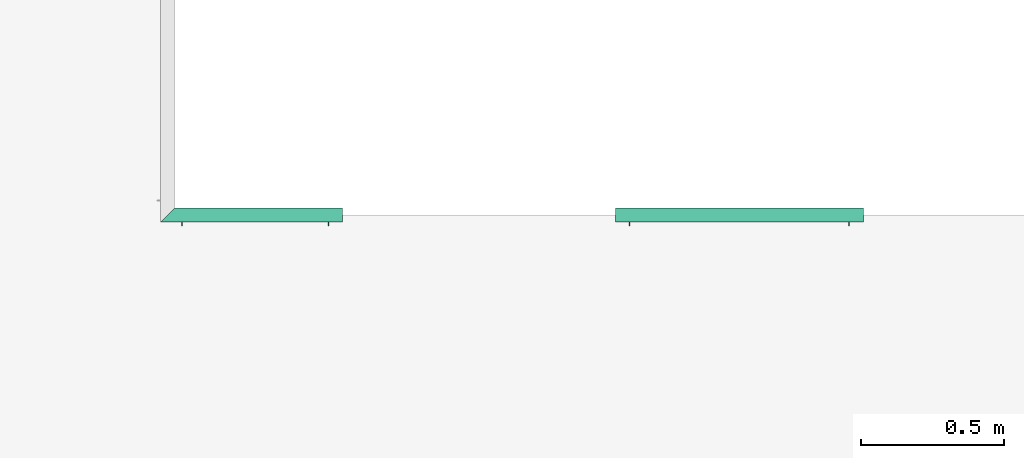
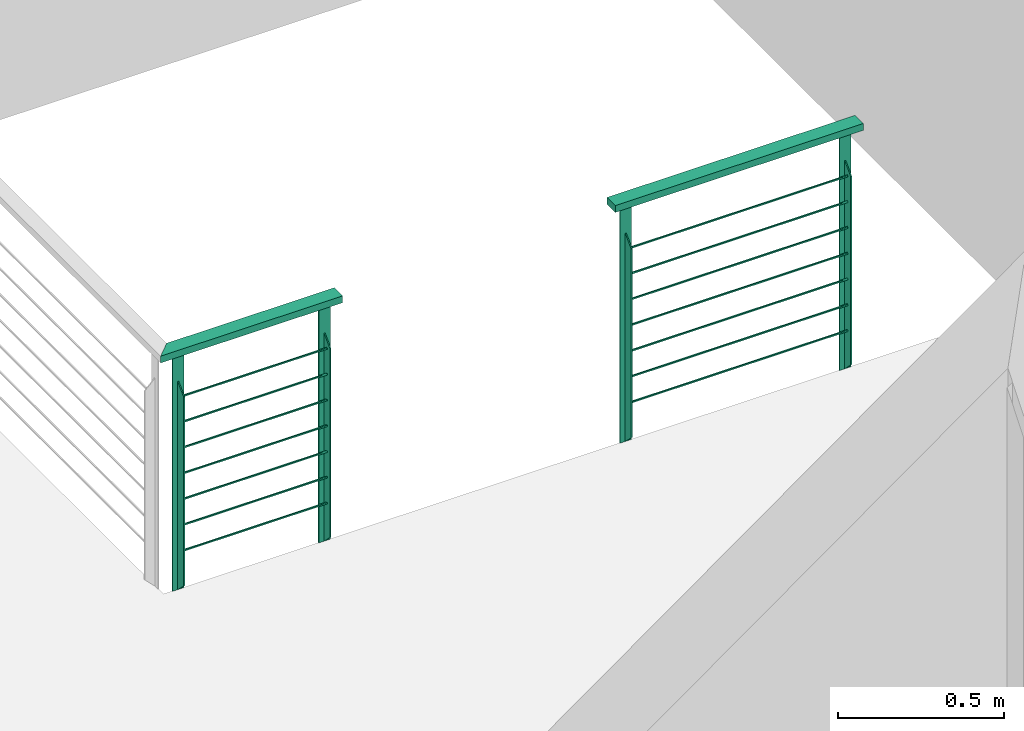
# One storey, part 18 of 26: 2 distribution elements.
"""IFC2X3 building model written with IfcOpenShell, lengths in millimetres."""

from ifc_helpers import new_model, entity, si_unit, converted_unit, money_unit, direction, frame, origin_with_axes, place, context, subcontext, project, spatial, faceted_brep, material, type_object, element, save


model = new_model("IFC2X3")

# Units and contexts
model_context = context("Model", 3, precision=1e-05, world=origin_with_axes(), true_north=direction((0.0, 1.0)))
body_context = subcontext(model_context, "Body", "Model", "MODEL_VIEW")
ifc_project = project(units=[si_unit("LENGTHUNIT", "METRE", prefix="MILLI"), si_unit("AREAUNIT", "SQUARE_METRE"), si_unit("VOLUMEUNIT", "CUBIC_METRE"), converted_unit("PLANEANGLEUNIT", "DEGREE", entity("IfcPlaneAngleMeasure", 0.0174532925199), si_unit("PLANEANGLEUNIT", "RADIAN"), dimensions=[0, 0, 0, 0, 0, 0, 0]), si_unit("SOLIDANGLEUNIT", "STERADIAN"), money_unit("USD"), converted_unit("TIMEUNIT", "Year", entity("IfcTimeMeasure", 31556926.0), si_unit("TIMEUNIT", "SECOND"), dimensions=[0, 0, 0, 0, 0, 0, 0]), si_unit("MASSUNIT", "GRAM"), si_unit("THERMODYNAMICTEMPERATUREUNIT", "DEGREE_CELSIUS"), si_unit("LUMINOUSINTENSITYUNIT", "LUMEN")], contexts=[model_context])

# Site, building, storey
site_placement = place(None, origin_with_axes())
site = spatial("IfcSite", under=ifc_project, at=site_placement, Name="Grove Residential", CompositionType="ELEMENT")
building_placement = place(site_placement, origin_with_axes())
building = spatial("IfcBuilding", under=site, at=building_placement, Name="Building", CompositionType="ELEMENT")
storey_placement = place(building_placement, origin_with_axes())
storey = spatial("IfcBuildingStorey", under=building, at=storey_placement, Name="Ground Floor", CompositionType="ELEMENT", Elevation=0.0)

# Distribution elements
ifc_material = material(Name="Background")
distribution_element_type = type_object("IfcDistributionElementType", Name="Rail Wired 02 20")
distribution_element_1_placement = place(storey_placement, frame((4285.0, 3749.99996722, 0.0), z_axis=(0.0, 0.0, 1.0), x_axis=(1.0, 0.0, 0.0)))
element("IfcDistributionElement", 1, at=distribution_element_1_placement, inside=storey, type_object=distribution_element_type, material=ifc_material, Name="FU - 001", context=body_context, shape_type="Brep", body=[
    faceted_brep([(0.0, 25.0, 875.0), (0.0, 25.0, 900.0), (0.0, -25.0, 900.0), (0.0, -25.0, 875.0), (-585.000084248, 25.0, 875.0), (-585.000084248, 25.0, 900.0), (-635.000084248, -25.0, 900.0), (-635.000084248, -25.0, 900.0), (-635.000084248, -25.0, 875.0), (-635.000084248, -25.0, 875.0)], [[[0, 1, 2, 3]], [[4, 5, 1, 0]], [[1, 5, 6, 7, 2]], [[3, 2, 7, 8]], [[0, 3, 8, 9, 4]], [[9, 6, 5, 4]], [[8, 7, 6, 9]]]),
    faceted_brep([(-30.0, -2.0, 0.0), (-30.0, -2.0, 871.0), (-70.0, -2.0, 871.0), (-70.0, -2.0, 0.0), (-30.0, 2.0, 0.0), (-30.0, 2.0, 871.0), (-70.0, 2.0, 871.0), (-70.0, 2.0, 0.0)], [[[0, 1, 2, 3]], [[4, 5, 1, 0]], [[1, 5, 6, 2]], [[3, 2, 6, 7]], [[0, 3, 7, 4]], [[7, 6, 5, 4]]]),
    faceted_brep([(-52.0, -38.0, 36.0), (-48.0, -38.0, 36.0), (-48.0, -38.0, 731.0), (-52.0, -38.0, 731.0), (-52.0, -2.0, 0.0), (-48.0, -2.0, 0.0), (-48.0, -2.0, 767.0), (-52.0, -2.0, 767.0)], [[[0, 1, 2, 3]], [[4, 5, 1, 0]], [[1, 5, 6, 2]], [[3, 2, 6, 7]], [[0, 3, 7, 4]], [[7, 6, 5, 4]]]),
    faceted_brep([(-540.000084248, -2.0, 0.0), (-540.000084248, -2.0, 871.0), (-580.000084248, -2.0, 871.0), (-580.000084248, -2.0, 0.0), (-540.000084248, 2.0, 0.0), (-540.000084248, 2.0, 871.0), (-580.000084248, 2.0, 871.0), (-580.000084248, 2.0, 0.0)], [[[0, 1, 2, 3]], [[4, 5, 1, 0]], [[1, 5, 6, 2]], [[3, 2, 6, 7]], [[0, 3, 7, 4]], [[7, 6, 5, 4]]]),
    faceted_brep([(-562.000084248, -38.0, 36.0), (-558.000084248, -38.0, 36.0), (-558.000084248, -38.0, 731.0), (-562.000084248, -38.0, 731.0), (-562.000084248, -2.0, 0.0), (-558.000084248, -2.0, 0.0), (-558.000084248, -2.0, 767.0), (-562.000084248, -2.0, 767.0)], [[[0, 1, 2, 3]], [[4, 5, 1, 0]], [[1, 5, 6, 2]], [[3, 2, 6, 7]], [[0, 3, 7, 4]], [[7, 6, 5, 4]]]),
    faceted_brep([(-20.0, -15.0, 871.0), (-20.0, -15.0, 875.0), (-80.0, -15.0, 875.0), (-80.0, -15.0, 871.0), (-20.0, 15.0, 871.0), (-20.0, 15.0, 875.0), (-80.0, 15.0, 875.0), (-80.0, 15.0, 871.0)], [[[0, 1, 2, 3]], [[4, 5, 1, 0]], [[1, 5, 6, 2]], [[3, 2, 6, 7]], [[0, 3, 7, 4]], [[7, 6, 5, 4]]]),
    faceted_brep([(-530.000084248, -15.0, 871.0), (-530.000084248, -15.0, 875.0), (-590.000084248, -15.0, 875.0), (-590.000084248, -15.0, 871.0), (-530.000084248, 15.0, 871.0), (-530.000084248, 15.0, 875.0), (-590.000084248, 15.0, 875.0), (-590.000084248, 15.0, 871.0)], [[[0, 1, 2, 3]], [[4, 5, 1, 0]], [[1, 5, 6, 2]], [[3, 2, 6, 7]], [[0, 3, 7, 4]], [[7, 6, 5, 4]]]),
    faceted_brep([(-540.000084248, -22.0, 155.0), (-558.000084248, -22.0, 155.0), (-558.000084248, -22.5, 155.0), (-52.0, -22.5, 155.0), (-52.0, -22.0, 155.0), (-70.0, -22.0, 155.0), (-70.0, -18.0, 155.0), (-50.0, -18.0, 155.0), (-50.0, -17.5, 155.0), (-560.000084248, -17.5, 155.0), (-560.000084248, -18.0, 155.0), (-540.000084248, -18.0, 155.0), (-540.000084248, -22.0, 150.0), (-558.000084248, -22.0, 150.0), (-558.000084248, -22.5, 150.0), (-52.0, -22.5, 150.0), (-52.0, -22.0, 150.0), (-70.0, -22.0, 150.0), (-70.0, -18.0, 150.0), (-50.0, -18.0, 150.0), (-50.0, -17.5, 150.0), (-560.000084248, -17.5, 150.0), (-560.000084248, -18.0, 150.0), (-540.000084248, -18.0, 150.0)], [[[0, 1, 2, 3, 4, 5, 6, 7, 8, 9, 10, 11]], [[0, 12, 13, 1]], [[13, 14, 2, 1]], [[3, 2, 14, 15]], [[3, 15, 16, 4]], [[16, 17, 5, 4]], [[5, 17, 18, 6]], [[6, 18, 19, 7]], [[19, 20, 8, 7]], [[9, 8, 20, 21]], [[10, 9, 21, 22]], [[22, 23, 11, 10]], [[11, 23, 12, 0]], [[12, 23, 22, 21, 20, 19, 18, 17, 16, 15, 14, 13]]]),
    faceted_brep([(-540.000084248, -22.0, 250.0), (-558.000084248, -22.0, 250.0), (-558.000084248, -22.5, 250.0), (-52.0, -22.5, 250.0), (-52.0, -22.0, 250.0), (-70.0, -22.0, 250.0), (-70.0, -18.0, 250.0), (-50.0, -18.0, 250.0), (-50.0, -17.5, 250.0), (-560.000084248, -17.5, 250.0), (-560.000084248, -18.0, 250.0), (-540.000084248, -18.0, 250.0), (-540.000084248, -22.0, 245.0), (-558.000084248, -22.0, 245.0), (-558.000084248, -22.5, 245.0), (-52.0, -22.5, 245.0), (-52.0, -22.0, 245.0), (-70.0, -22.0, 245.0), (-70.0, -18.0, 245.0), (-50.0, -18.0, 245.0), (-50.0, -17.5, 245.0), (-560.000084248, -17.5, 245.0), (-560.000084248, -18.0, 245.0), (-540.000084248, -18.0, 245.0)], [[[0, 1, 2, 3, 4, 5, 6, 7, 8, 9, 10, 11]], [[0, 12, 13, 1]], [[13, 14, 2, 1]], [[3, 2, 14, 15]], [[3, 15, 16, 4]], [[16, 17, 5, 4]], [[5, 17, 18, 6]], [[6, 18, 19, 7]], [[19, 20, 8, 7]], [[9, 8, 20, 21]], [[10, 9, 21, 22]], [[22, 23, 11, 10]], [[11, 23, 12, 0]], [[12, 23, 22, 21, 20, 19, 18, 17, 16, 15, 14, 13]]]),
    faceted_brep([(-540.000084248, -22.0, 345.0), (-558.000084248, -22.0, 345.0), (-558.000084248, -22.5, 345.0), (-52.0, -22.5, 345.0), (-52.0, -22.0, 345.0), (-70.0, -22.0, 345.0), (-70.0, -18.0, 345.0), (-50.0, -18.0, 345.0), (-50.0, -17.5, 345.0), (-560.000084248, -17.5, 345.0), (-560.000084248, -18.0, 345.0), (-540.000084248, -18.0, 345.0), (-540.000084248, -22.0, 340.0), (-558.000084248, -22.0, 340.0), (-558.000084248, -22.5, 340.0), (-52.0, -22.5, 340.0), (-52.0, -22.0, 340.0), (-70.0, -22.0, 340.0), (-70.0, -18.0, 340.0), (-50.0, -18.0, 340.0), (-50.0, -17.5, 340.0), (-560.000084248, -17.5, 340.0), (-560.000084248, -18.0, 340.0), (-540.000084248, -18.0, 340.0)], [[[0, 1, 2, 3, 4, 5, 6, 7, 8, 9, 10, 11]], [[0, 12, 13, 1]], [[13, 14, 2, 1]], [[3, 2, 14, 15]], [[3, 15, 16, 4]], [[16, 17, 5, 4]], [[5, 17, 18, 6]], [[6, 18, 19, 7]], [[19, 20, 8, 7]], [[9, 8, 20, 21]], [[10, 9, 21, 22]], [[22, 23, 11, 10]], [[11, 23, 12, 0]], [[12, 23, 22, 21, 20, 19, 18, 17, 16, 15, 14, 13]]]),
    faceted_brep([(-540.000084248, -22.0, 440.0), (-558.000084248, -22.0, 440.0), (-558.000084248, -22.5, 440.0), (-52.0, -22.5, 440.0), (-52.0, -22.0, 440.0), (-70.0, -22.0, 440.0), (-70.0, -18.0, 440.0), (-50.0, -18.0, 440.0), (-50.0, -17.5, 440.0), (-560.000084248, -17.5, 440.0), (-560.000084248, -18.0, 440.0), (-540.000084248, -18.0, 440.0), (-540.000084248, -22.0, 435.0), (-558.000084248, -22.0, 435.0), (-558.000084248, -22.5, 435.0), (-52.0, -22.5, 435.0), (-52.0, -22.0, 435.0), (-70.0, -22.0, 435.0), (-70.0, -18.0, 435.0), (-50.0, -18.0, 435.0), (-50.0, -17.5, 435.0), (-560.000084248, -17.5, 435.0), (-560.000084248, -18.0, 435.0), (-540.000084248, -18.0, 435.0)], [[[0, 1, 2, 3, 4, 5, 6, 7, 8, 9, 10, 11]], [[0, 12, 13, 1]], [[13, 14, 2, 1]], [[3, 2, 14, 15]], [[3, 15, 16, 4]], [[16, 17, 5, 4]], [[5, 17, 18, 6]], [[6, 18, 19, 7]], [[19, 20, 8, 7]], [[9, 8, 20, 21]], [[10, 9, 21, 22]], [[22, 23, 11, 10]], [[11, 23, 12, 0]], [[12, 23, 22, 21, 20, 19, 18, 17, 16, 15, 14, 13]]]),
    faceted_brep([(-540.000084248, -22.0, 535.0), (-558.000084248, -22.0, 535.0), (-558.000084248, -22.5, 535.0), (-52.0, -22.5, 535.0), (-52.0, -22.0, 535.0), (-70.0, -22.0, 535.0), (-70.0, -18.0, 535.0), (-50.0, -18.0, 535.0), (-50.0, -17.5, 535.0), (-560.000084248, -17.5, 535.0), (-560.000084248, -18.0, 535.0), (-540.000084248, -18.0, 535.0), (-540.000084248, -22.0, 530.0), (-558.000084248, -22.0, 530.0), (-558.000084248, -22.5, 530.0), (-52.0, -22.5, 530.0), (-52.0, -22.0, 530.0), (-70.0, -22.0, 530.0), (-70.0, -18.0, 530.0), (-50.0, -18.0, 530.0), (-50.0, -17.5, 530.0), (-560.000084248, -17.5, 530.0), (-560.000084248, -18.0, 530.0), (-540.000084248, -18.0, 530.0)], [[[0, 1, 2, 3, 4, 5, 6, 7, 8, 9, 10, 11]], [[0, 12, 13, 1]], [[13, 14, 2, 1]], [[3, 2, 14, 15]], [[3, 15, 16, 4]], [[16, 17, 5, 4]], [[5, 17, 18, 6]], [[6, 18, 19, 7]], [[19, 20, 8, 7]], [[9, 8, 20, 21]], [[10, 9, 21, 22]], [[22, 23, 11, 10]], [[11, 23, 12, 0]], [[12, 23, 22, 21, 20, 19, 18, 17, 16, 15, 14, 13]]]),
    faceted_brep([(-540.000084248, -22.0, 630.0), (-558.000084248, -22.0, 630.0), (-558.000084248, -22.5, 630.0), (-52.0, -22.5, 630.0), (-52.0, -22.0, 630.0), (-70.0, -22.0, 630.0), (-70.0, -18.0, 630.0), (-50.0, -18.0, 630.0), (-50.0, -17.5, 630.0), (-560.000084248, -17.5, 630.0), (-560.000084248, -18.0, 630.0), (-540.000084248, -18.0, 630.0), (-540.000084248, -22.0, 625.0), (-558.000084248, -22.0, 625.0), (-558.000084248, -22.5, 625.0), (-52.0, -22.5, 625.0), (-52.0, -22.0, 625.0), (-70.0, -22.0, 625.0), (-70.0, -18.0, 625.0), (-50.0, -18.0, 625.0), (-50.0, -17.5, 625.0), (-560.000084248, -17.5, 625.0), (-560.000084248, -18.0, 625.0), (-540.000084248, -18.0, 625.0)], [[[0, 1, 2, 3, 4, 5, 6, 7, 8, 9, 10, 11]], [[0, 12, 13, 1]], [[13, 14, 2, 1]], [[3, 2, 14, 15]], [[3, 15, 16, 4]], [[16, 17, 5, 4]], [[5, 17, 18, 6]], [[6, 18, 19, 7]], [[19, 20, 8, 7]], [[9, 8, 20, 21]], [[10, 9, 21, 22]], [[22, 23, 11, 10]], [[11, 23, 12, 0]], [[12, 23, 22, 21, 20, 19, 18, 17, 16, 15, 14, 13]]]),
    faceted_brep([(-540.000084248, -22.0, 725.0), (-558.000084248, -22.0, 725.0), (-558.000084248, -22.5, 725.0), (-52.0, -22.5, 725.0), (-52.0, -22.0, 725.0), (-70.0, -22.0, 725.0), (-70.0, -18.0, 725.0), (-50.0, -18.0, 725.0), (-50.0, -17.5, 725.0), (-560.000084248, -17.5, 725.0), (-560.000084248, -18.0, 725.0), (-540.000084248, -18.0, 725.0), (-540.000084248, -22.0, 720.0), (-558.000084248, -22.0, 720.0), (-558.000084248, -22.5, 720.0), (-52.0, -22.5, 720.0), (-52.0, -22.0, 720.0), (-70.0, -22.0, 720.0), (-70.0, -18.0, 720.0), (-50.0, -18.0, 720.0), (-50.0, -17.5, 720.0), (-560.000084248, -17.5, 720.0), (-560.000084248, -18.0, 720.0), (-540.000084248, -18.0, 720.0)], [[[0, 1, 2, 3, 4, 5, 6, 7, 8, 9, 10, 11]], [[0, 12, 13, 1]], [[13, 14, 2, 1]], [[3, 2, 14, 15]], [[3, 15, 16, 4]], [[16, 17, 5, 4]], [[5, 17, 18, 6]], [[6, 18, 19, 7]], [[19, 20, 8, 7]], [[9, 8, 20, 21]], [[10, 9, 21, 22]], [[22, 23, 11, 10]], [[11, 23, 12, 0]], [[12, 23, 22, 21, 20, 19, 18, 17, 16, 15, 14, 13]]]),
])
distribution_element_2_placement = place(storey_placement, frame((5235.0, 3749.99996722, 0.0), z_axis=(0.0, 0.0, 1.0), x_axis=(1.0, 0.0, 0.0)))
element("IfcDistributionElement", 2, at=distribution_element_2_placement, inside=storey, type_object=distribution_element_type, material=ifc_material, Name="FU - 001", context=body_context, shape_type="Brep", body=[
    faceted_brep([(0.0, 25.0, 875.0), (0.0, -25.0, 875.0), (0.0, -25.0, 900.0), (0.0, 25.0, 900.0), (865.0, 25.0, 875.0), (865.0, -25.0, 875.0), (865.0, -25.0, 900.0), (865.0, 25.0, 900.0)], [[[0, 1, 2, 3]], [[0, 4, 5, 1]], [[1, 5, 6, 2]], [[3, 2, 6, 7]], [[4, 0, 3, 7]], [[5, 4, 7, 6]]]),
    faceted_brep([(30.0, -2.0, 0.0), (70.0, -2.0, 0.0), (70.0, -2.0, 871.0), (30.0, -2.0, 871.0), (30.0, 2.0, 0.0), (70.0, 2.0, 0.0), (70.0, 2.0, 871.0), (30.0, 2.0, 871.0)], [[[0, 1, 2, 3]], [[0, 4, 5, 1]], [[1, 5, 6, 2]], [[3, 2, 6, 7]], [[4, 0, 3, 7]], [[5, 4, 7, 6]]]),
    faceted_brep([(52.0, -38.0, 36.0), (52.0, -38.0, 731.0), (48.0, -38.0, 731.0), (48.0, -38.0, 36.0), (52.0, -2.0, 0.0), (52.0, -2.0, 767.0), (48.0, -2.0, 767.0), (48.0, -2.0, 0.0)], [[[0, 1, 2, 3]], [[0, 4, 5, 1]], [[1, 5, 6, 2]], [[3, 2, 6, 7]], [[4, 0, 3, 7]], [[5, 4, 7, 6]]]),
    faceted_brep([(795.0, -2.0, 0.0), (835.0, -2.0, 0.0), (835.0, -2.0, 871.0), (795.0, -2.0, 871.0), (795.0, 2.0, 0.0), (835.0, 2.0, 0.0), (835.0, 2.0, 871.0), (795.0, 2.0, 871.0)], [[[0, 1, 2, 3]], [[0, 4, 5, 1]], [[1, 5, 6, 2]], [[3, 2, 6, 7]], [[4, 0, 3, 7]], [[5, 4, 7, 6]]]),
    faceted_brep([(817.0, -38.0, 36.0), (817.0, -38.0, 731.0), (813.0, -38.0, 731.0), (813.0, -38.0, 36.0), (817.0, -2.0, 0.0), (817.0, -2.0, 767.0), (813.0, -2.0, 767.0), (813.0, -2.0, 0.0)], [[[0, 1, 2, 3]], [[0, 4, 5, 1]], [[1, 5, 6, 2]], [[3, 2, 6, 7]], [[4, 0, 3, 7]], [[5, 4, 7, 6]]]),
    faceted_brep([(20.0, -15.0, 871.0), (80.0, -15.0, 871.0), (80.0, -15.0, 875.0), (20.0, -15.0, 875.0), (20.0, 15.0, 871.0), (80.0, 15.0, 871.0), (80.0, 15.0, 875.0), (20.0, 15.0, 875.0)], [[[0, 1, 2, 3]], [[0, 4, 5, 1]], [[1, 5, 6, 2]], [[3, 2, 6, 7]], [[4, 0, 3, 7]], [[5, 4, 7, 6]]]),
    faceted_brep([(785.0, -15.0, 871.0), (845.0, -15.0, 871.0), (845.0, -15.0, 875.0), (785.0, -15.0, 875.0), (785.0, 15.0, 871.0), (845.0, 15.0, 871.0), (845.0, 15.0, 875.0), (785.0, 15.0, 875.0)], [[[0, 1, 2, 3]], [[0, 4, 5, 1]], [[1, 5, 6, 2]], [[3, 2, 6, 7]], [[4, 0, 3, 7]], [[5, 4, 7, 6]]]),
    faceted_brep([(795.0, -22.0, 155.0), (795.0, -18.0, 155.0), (815.0, -18.0, 155.0), (815.0, -17.5, 155.0), (50.0, -17.5, 155.0), (50.0, -18.0, 155.0), (70.0, -18.0, 155.0), (70.0, -22.0, 155.0), (52.0, -22.0, 155.0), (52.0, -22.5, 155.0), (813.0, -22.5, 155.0), (813.0, -22.0, 155.0), (795.0, -22.0, 150.0), (795.0, -18.0, 150.0), (815.0, -18.0, 150.0), (815.0, -17.5, 150.0), (50.0, -17.5, 150.0), (50.0, -18.0, 150.0), (70.0, -18.0, 150.0), (70.0, -22.0, 150.0), (52.0, -22.0, 150.0), (52.0, -22.5, 150.0), (813.0, -22.5, 150.0), (813.0, -22.0, 150.0)], [[[0, 1, 2, 3, 4, 5, 6, 7, 8, 9, 10, 11]], [[1, 0, 12, 13]], [[14, 2, 1, 13]], [[2, 14, 15, 3]], [[3, 15, 16, 4]], [[17, 5, 4, 16]], [[6, 5, 17, 18]], [[7, 6, 18, 19]], [[20, 8, 7, 19]], [[9, 8, 20, 21]], [[9, 21, 22, 10]], [[23, 11, 10, 22]], [[0, 11, 23, 12]], [[12, 23, 22, 21, 20, 19, 18, 17, 16, 15, 14, 13]]]),
    faceted_brep([(795.0, -22.0, 250.0), (795.0, -18.0, 250.0), (815.0, -18.0, 250.0), (815.0, -17.5, 250.0), (50.0, -17.5, 250.0), (50.0, -18.0, 250.0), (70.0, -18.0, 250.0), (70.0, -22.0, 250.0), (52.0, -22.0, 250.0), (52.0, -22.5, 250.0), (813.0, -22.5, 250.0), (813.0, -22.0, 250.0), (795.0, -22.0, 245.0), (795.0, -18.0, 245.0), (815.0, -18.0, 245.0), (815.0, -17.5, 245.0), (50.0, -17.5, 245.0), (50.0, -18.0, 245.0), (70.0, -18.0, 245.0), (70.0, -22.0, 245.0), (52.0, -22.0, 245.0), (52.0, -22.5, 245.0), (813.0, -22.5, 245.0), (813.0, -22.0, 245.0)], [[[0, 1, 2, 3, 4, 5, 6, 7, 8, 9, 10, 11]], [[1, 0, 12, 13]], [[14, 2, 1, 13]], [[2, 14, 15, 3]], [[3, 15, 16, 4]], [[17, 5, 4, 16]], [[6, 5, 17, 18]], [[7, 6, 18, 19]], [[20, 8, 7, 19]], [[9, 8, 20, 21]], [[9, 21, 22, 10]], [[23, 11, 10, 22]], [[0, 11, 23, 12]], [[12, 23, 22, 21, 20, 19, 18, 17, 16, 15, 14, 13]]]),
    faceted_brep([(795.0, -22.0, 345.0), (795.0, -18.0, 345.0), (815.0, -18.0, 345.0), (815.0, -17.5, 345.0), (50.0, -17.5, 345.0), (50.0, -18.0, 345.0), (70.0, -18.0, 345.0), (70.0, -22.0, 345.0), (52.0, -22.0, 345.0), (52.0, -22.5, 345.0), (813.0, -22.5, 345.0), (813.0, -22.0, 345.0), (795.0, -22.0, 340.0), (795.0, -18.0, 340.0), (815.0, -18.0, 340.0), (815.0, -17.5, 340.0), (50.0, -17.5, 340.0), (50.0, -18.0, 340.0), (70.0, -18.0, 340.0), (70.0, -22.0, 340.0), (52.0, -22.0, 340.0), (52.0, -22.5, 340.0), (813.0, -22.5, 340.0), (813.0, -22.0, 340.0)], [[[0, 1, 2, 3, 4, 5, 6, 7, 8, 9, 10, 11]], [[1, 0, 12, 13]], [[14, 2, 1, 13]], [[2, 14, 15, 3]], [[3, 15, 16, 4]], [[17, 5, 4, 16]], [[6, 5, 17, 18]], [[7, 6, 18, 19]], [[20, 8, 7, 19]], [[9, 8, 20, 21]], [[9, 21, 22, 10]], [[23, 11, 10, 22]], [[0, 11, 23, 12]], [[12, 23, 22, 21, 20, 19, 18, 17, 16, 15, 14, 13]]]),
    faceted_brep([(795.0, -22.0, 440.0), (795.0, -18.0, 440.0), (815.0, -18.0, 440.0), (815.0, -17.5, 440.0), (50.0, -17.5, 440.0), (50.0, -18.0, 440.0), (70.0, -18.0, 440.0), (70.0, -22.0, 440.0), (52.0, -22.0, 440.0), (52.0, -22.5, 440.0), (813.0, -22.5, 440.0), (813.0, -22.0, 440.0), (795.0, -22.0, 435.0), (795.0, -18.0, 435.0), (815.0, -18.0, 435.0), (815.0, -17.5, 435.0), (50.0, -17.5, 435.0), (50.0, -18.0, 435.0), (70.0, -18.0, 435.0), (70.0, -22.0, 435.0), (52.0, -22.0, 435.0), (52.0, -22.5, 435.0), (813.0, -22.5, 435.0), (813.0, -22.0, 435.0)], [[[0, 1, 2, 3, 4, 5, 6, 7, 8, 9, 10, 11]], [[1, 0, 12, 13]], [[14, 2, 1, 13]], [[2, 14, 15, 3]], [[3, 15, 16, 4]], [[17, 5, 4, 16]], [[6, 5, 17, 18]], [[7, 6, 18, 19]], [[20, 8, 7, 19]], [[9, 8, 20, 21]], [[9, 21, 22, 10]], [[23, 11, 10, 22]], [[0, 11, 23, 12]], [[12, 23, 22, 21, 20, 19, 18, 17, 16, 15, 14, 13]]]),
    faceted_brep([(795.0, -22.0, 535.0), (795.0, -18.0, 535.0), (815.0, -18.0, 535.0), (815.0, -17.5, 535.0), (50.0, -17.5, 535.0), (50.0, -18.0, 535.0), (70.0, -18.0, 535.0), (70.0, -22.0, 535.0), (52.0, -22.0, 535.0), (52.0, -22.5, 535.0), (813.0, -22.5, 535.0), (813.0, -22.0, 535.0), (795.0, -22.0, 530.0), (795.0, -18.0, 530.0), (815.0, -18.0, 530.0), (815.0, -17.5, 530.0), (50.0, -17.5, 530.0), (50.0, -18.0, 530.0), (70.0, -18.0, 530.0), (70.0, -22.0, 530.0), (52.0, -22.0, 530.0), (52.0, -22.5, 530.0), (813.0, -22.5, 530.0), (813.0, -22.0, 530.0)], [[[0, 1, 2, 3, 4, 5, 6, 7, 8, 9, 10, 11]], [[1, 0, 12, 13]], [[14, 2, 1, 13]], [[2, 14, 15, 3]], [[3, 15, 16, 4]], [[17, 5, 4, 16]], [[6, 5, 17, 18]], [[7, 6, 18, 19]], [[20, 8, 7, 19]], [[9, 8, 20, 21]], [[9, 21, 22, 10]], [[23, 11, 10, 22]], [[0, 11, 23, 12]], [[12, 23, 22, 21, 20, 19, 18, 17, 16, 15, 14, 13]]]),
    faceted_brep([(795.0, -22.0, 630.0), (795.0, -18.0, 630.0), (815.0, -18.0, 630.0), (815.0, -17.5, 630.0), (50.0, -17.5, 630.0), (50.0, -18.0, 630.0), (70.0, -18.0, 630.0), (70.0, -22.0, 630.0), (52.0, -22.0, 630.0), (52.0, -22.5, 630.0), (813.0, -22.5, 630.0), (813.0, -22.0, 630.0), (795.0, -22.0, 625.0), (795.0, -18.0, 625.0), (815.0, -18.0, 625.0), (815.0, -17.5, 625.0), (50.0, -17.5, 625.0), (50.0, -18.0, 625.0), (70.0, -18.0, 625.0), (70.0, -22.0, 625.0), (52.0, -22.0, 625.0), (52.0, -22.5, 625.0), (813.0, -22.5, 625.0), (813.0, -22.0, 625.0)], [[[0, 1, 2, 3, 4, 5, 6, 7, 8, 9, 10, 11]], [[1, 0, 12, 13]], [[14, 2, 1, 13]], [[2, 14, 15, 3]], [[3, 15, 16, 4]], [[17, 5, 4, 16]], [[6, 5, 17, 18]], [[7, 6, 18, 19]], [[20, 8, 7, 19]], [[9, 8, 20, 21]], [[9, 21, 22, 10]], [[23, 11, 10, 22]], [[0, 11, 23, 12]], [[12, 23, 22, 21, 20, 19, 18, 17, 16, 15, 14, 13]]]),
    faceted_brep([(795.0, -22.0, 725.0), (795.0, -18.0, 725.0), (815.0, -18.0, 725.0), (815.0, -17.5, 725.0), (50.0, -17.5, 725.0), (50.0, -18.0, 725.0), (70.0, -18.0, 725.0), (70.0, -22.0, 725.0), (52.0, -22.0, 725.0), (52.0, -22.5, 725.0), (813.0, -22.5, 725.0), (813.0, -22.0, 725.0), (795.0, -22.0, 720.0), (795.0, -18.0, 720.0), (815.0, -18.0, 720.0), (815.0, -17.5, 720.0), (50.0, -17.5, 720.0), (50.0, -18.0, 720.0), (70.0, -18.0, 720.0), (70.0, -22.0, 720.0), (52.0, -22.0, 720.0), (52.0, -22.5, 720.0), (813.0, -22.5, 720.0), (813.0, -22.0, 720.0)], [[[0, 1, 2, 3, 4, 5, 6, 7, 8, 9, 10, 11]], [[1, 0, 12, 13]], [[14, 2, 1, 13]], [[2, 14, 15, 3]], [[3, 15, 16, 4]], [[17, 5, 4, 16]], [[6, 5, 17, 18]], [[7, 6, 18, 19]], [[20, 8, 7, 19]], [[9, 8, 20, 21]], [[9, 21, 22, 10]], [[23, 11, 10, 22]], [[0, 11, 23, 12]], [[12, 23, 22, 21, 20, 19, 18, 17, 16, 15, 14, 13]]]),
])

save(model, "model.ifc")
